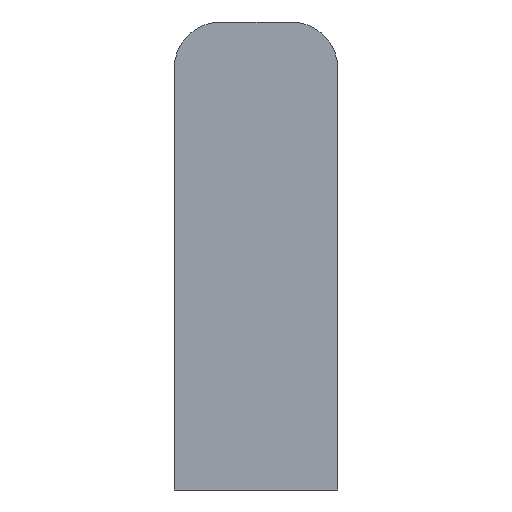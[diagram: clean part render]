
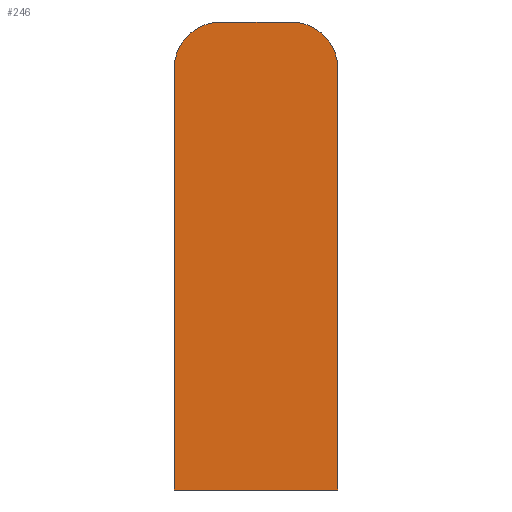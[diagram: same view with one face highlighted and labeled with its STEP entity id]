
A CAD part, front view. The second image highlights one B-rep face of the part: STEP entity #246.
In plain terms, the highlighted planar face has unit normal (0, -1, 0).
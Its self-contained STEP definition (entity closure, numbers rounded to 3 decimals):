
#8 = CARTESIAN_POINT ( 'NONE',  ( -2.25, 0., 13.5 ) ) ;
#9 = CARTESIAN_POINT ( 'NONE',  ( 5.25, 0., -16.5 ) ) ;
#11 = VERTEX_POINT ( 'NONE', #8 ) ;
#12 = VERTEX_POINT ( 'NONE', #29 ) ;
#15 = VERTEX_POINT ( 'NONE', #9 ) ;
#16 = VERTEX_POINT ( 'NONE', #32 ) ;
#18 = VERTEX_POINT ( 'NONE', #33 ) ;
#21 = VERTEX_POINT ( 'NONE', #36 ) ;
#29 = CARTESIAN_POINT ( 'NONE',  ( -5.25, 0., 10.5 ) ) ;
#32 = CARTESIAN_POINT ( 'NONE',  ( 5.25, 0., 10.5 ) ) ;
#33 = CARTESIAN_POINT ( 'NONE',  ( -5.25, 0., -16.5 ) ) ;
#36 = CARTESIAN_POINT ( 'NONE',  ( 2.25, 0., 13.5 ) ) ;
#44 = CARTESIAN_POINT ( 'NONE',  ( -5.25, 0., -16.5 ) ) ;
#49 = DIRECTION ( 'NONE',  ( 0., 0., -1. ) ) ;
#50 = CARTESIAN_POINT ( 'NONE',  ( -2.25, 0., 10.5 ) ) ;
#52 = DIRECTION ( 'NONE',  ( 0., -1., 0. ) ) ;
#53 = DIRECTION ( 'NONE',  ( -1., 0., 0. ) ) ;
#72 = CARTESIAN_POINT ( 'NONE',  ( 2.25, 0., 13.5 ) ) ;
#73 = DIRECTION ( 'NONE',  ( -1., 0., 0. ) ) ;
#85 = CARTESIAN_POINT ( 'NONE',  ( 2.25, 0., 10.5 ) ) ;
#88 = CARTESIAN_POINT ( 'NONE',  ( 5.25, 0., -16.5 ) ) ;
#89 = DIRECTION ( 'NONE',  ( 0., 0., 1. ) ) ;
#95 = DIRECTION ( 'NONE',  ( 0., -1., 0. ) ) ;
#96 = DIRECTION ( 'NONE',  ( -1., 0., 0. ) ) ;
#97 = CARTESIAN_POINT ( 'NONE',  ( 5.25, 0., -16.5 ) ) ;
#98 = DIRECTION ( 'NONE',  ( 1., 0., 0. ) ) ;
#134 = PLANE ( 'NONE',  #223 ) ;
#137 = CARTESIAN_POINT ( 'NONE',  ( 0., 0., -1.5 ) ) ;
#143 = DIRECTION ( 'NONE',  ( 0., 1., 0. ) ) ;
#144 = DIRECTION ( 'NONE',  ( -1., 0., 0. ) ) ;
#183 = EDGE_CURVE ( 'NONE', #12, #18, #327, .T. ) ;
#185 = EDGE_CURVE ( 'NONE', #11, #12, #331, .T. ) ;
#194 = EDGE_CURVE ( 'NONE', #21, #11, #338, .T. ) ;
#196 = EDGE_CURVE ( 'NONE', #15, #16, #348, .T. ) ;
#197 = AXIS2_PLACEMENT_3D ( 'NONE', #85, #95, #96 ) ;
#219 = EDGE_CURVE ( 'NONE', #16, #21, #366, .T. ) ;
#220 = EDGE_CURVE ( 'NONE', #18, #15, #358, .T. ) ;
#221 = AXIS2_PLACEMENT_3D ( 'NONE', #50, #52, #53 ) ;
#223 = AXIS2_PLACEMENT_3D ( 'NONE', #137, #143, #144 ) ;
#246 = ADVANCED_FACE ( 'NONE', ( #390 ), #134, .F. ) ;
#282 = ORIENTED_EDGE ( 'NONE', *, *, #183, .T. ) ;
#283 = ORIENTED_EDGE ( 'NONE', *, *, #185, .T. ) ;
#284 = ORIENTED_EDGE ( 'NONE', *, *, #194, .T. ) ;
#285 = ORIENTED_EDGE ( 'NONE', *, *, #219, .T. ) ;
#286 = ORIENTED_EDGE ( 'NONE', *, *, #196, .T. ) ;
#301 = EDGE_LOOP ( 'NONE', ( #286, #285, #284, #283, #282, #324 ) ) ;
#324 = ORIENTED_EDGE ( 'NONE', *, *, #220, .T. ) ;
#326 = VECTOR ( 'NONE', #49, 1000. ) ;
#327 = LINE ( 'NONE', #44, #326 ) ;
#331 = CIRCLE ( 'NONE', #221, 3. ) ;
#338 = LINE ( 'NONE', #72, #339 ) ;
#339 = VECTOR ( 'NONE', #73, 1000. ) ;
#348 = LINE ( 'NONE', #88, #349 ) ;
#349 = VECTOR ( 'NONE', #89, 1000. ) ;
#358 = LINE ( 'NONE', #97, #359 ) ;
#359 = VECTOR ( 'NONE', #98, 1000. ) ;
#366 = CIRCLE ( 'NONE', #197, 3. ) ;
#390 = FACE_OUTER_BOUND ( 'NONE', #301, .T. ) ;
